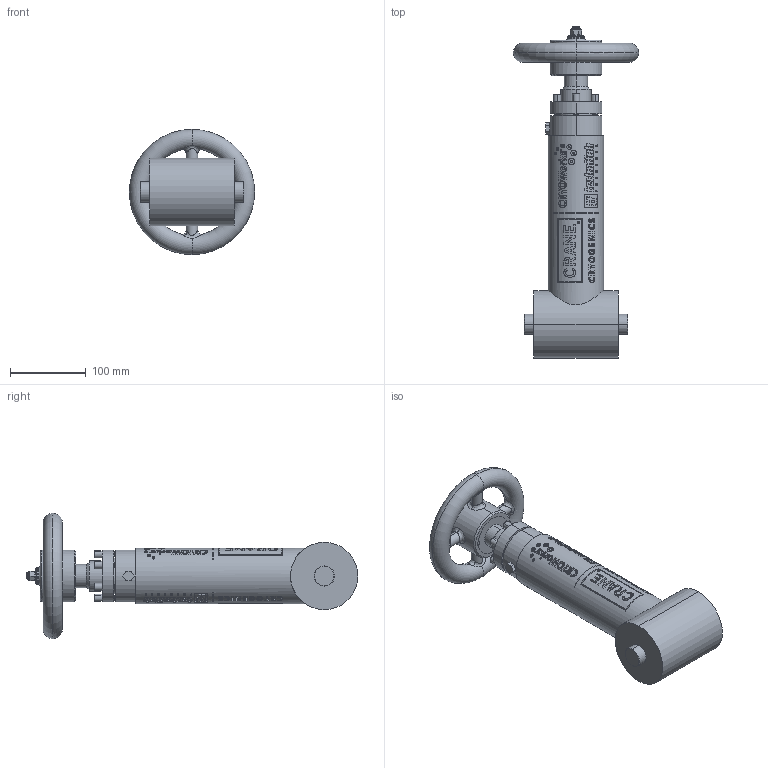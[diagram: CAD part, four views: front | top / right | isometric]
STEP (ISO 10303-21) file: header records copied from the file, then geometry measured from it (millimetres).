
FILE_DESCRIPTION (( 'STEP AP203' ), '1' );
FILE_NAME ('0.75IN T-PATTERN MANUAL CRANE BELLOWS SEAL VALVE.step', '2025-12-17T20:04:43', ( '' ), ( '' ), 'SwSTEP 2.0', 'SolidWorks 2023', '' );
FILE_SCHEMA (( 'CONFIG_CONTROL_DESIGN' ));
Length unit declared in the file: inch
Products named in the file (1): 0.75IN T-PATTERN MANUAL CRANE BELLOWS SEAL VALVE
Bounding box: 165.1 x 437.56 x 165.1 mm (x, y, z)
Volume: 2177211.3 mm3; surface area: 182951.7 mm2
Topology: 1 solids, 1 shells, 1343 faces, 3466 edges, 2305 vertices
Faces by surface type: plane 775, cylinder 379, bspline 148, cone 31, torus 10
Full cylindrical faces by diameter (mm): 1.195 x2, 1.309 x2, 1.422 x2, 1.631 x2, 1.842 x2, 2.373 x2, 2.456 x2, 2.727 x2, 2.906 x2, 3.046 x2, 3.207 x2, 3.658 x2, 4.941 x2, 6.104 x2, 7.386 x2, 8.599 x2, 73.025 x1
Entity records: 90538 total; most frequent: CARTESIAN_POINT 60899, ORIENTED_EDGE 6816, DIRECTION 5051, EDGE_CURVE 3408, VERTEX_POINT 2299, AXIS2_PLACEMENT_3D 1701, VECTOR 1649, LINE 1649
